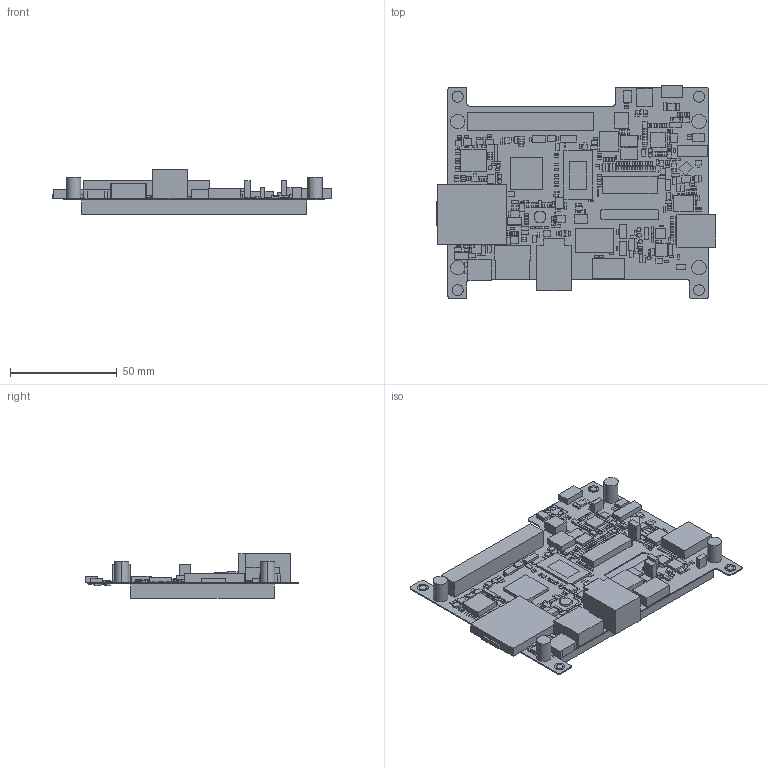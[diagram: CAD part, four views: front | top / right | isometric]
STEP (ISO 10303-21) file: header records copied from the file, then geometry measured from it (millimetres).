
FILE_DESCRIPTION((''),'2;1');
FILE_NAME('4_3R_ASM','2015-01-28T',('Administrator'),(''),'PRO/ENGINEER BY PARAMETRIC TECHNOLOGY CORPORATION, 2007170','PRO/ENGINEER BY PARAMETRIC TECHNOLOGY CORPORATION, 2007170','');
FILE_SCHEMA(('CONFIG_CONTROL_DESIGN'));
Length unit declared in the file: inch
Products named in the file (72): ASM0001; 4_3_R; MTOP-6; CHIP-LED0603; 6_2-PAD; CT3528; DFN1410-6; TRANSFLASH-TFCMF-108-KINGFONT; EHF-105-01-L-D; C0805; C0603; CDPH4D19FNP-470MC; C0402K; SC70-3; KMR221GLFS; TFBGA208_0_8MM; HVQFN24; FBGA-90-0_8MM; SSOP08; SOT143; SOT353-5; HVQFN33; TO263-5; SOT23-5L; TSSOP16; LGA-14; SJ_2-0402; 86L_400MIL_TSOP-2; GOLD-CAP-SD; DFN10-3X3; SOD323-R; XBEE-PRO; 1X02-100MIL; ASFL1-OSCILLATOR; SSOP20; TSSOP8-3MM_BODY; 7M-CRYSTAL; MM39SL; SOD123; 555153-1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
Assembly tree (458 placements, depth 3):
  4_3R_ASM
    ASM0001_ASM_ASM
      ASM0001
      4_3_R
      MTOP-6  x2
      CHIP-LED0603  x16
      6_2-PAD  x4
      CT3528  x4
      DFN1410-6  x3
      TRANSFLASH-TFCMF-108-KINGFONT
      EHF-105-01-L-D
      C0805  x20
      C0603  x8
      CDPH4D19FNP-470MC
      C0402K  x28
      SC70-3  x2
      KMR221GLFS  x2
      TFBGA208_0_8MM
      HVQFN24
      FBGA-90-0_8MM
      SSOP08
      SOT143  x3
      SOT353-5  x3
      HVQFN33
      TO263-5
      SOT23-5L  x3
      TSSOP16  x2
      LGA-14
      SJ_2-0402  x9
      86L_400MIL_TSOP-2
      GOLD-CAP-SD
      DFN10-3X3
      SOD323-R  x7
      XBEE-PRO
      1X02-100MIL  x2
      ASFL1-OSCILLATOR
      SSOP20
      TSSOP8-3MM_BODY
      7M-CRYSTAL  x3
      MM39SL
      SOD123
      555153-1
      USB_CON_A_RA
      CONN2-SMT-100MIL
      B1_00  x8
      TSSOP8
      C0402  x91
      SOT323  x7
      MA04-1  x2
      2X23
      MA06-1
      SOT363_PHILIPS  x2
      P-LCC-4-3
      QFN20_4X4_0_5MM
      DFN2018-6
      MA03-1
      SOT23  x5
      2X06_PMOD
      R0402  x166
      R0603  x3
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Bounding box: 130.91 x 99.84 x 20.78 mm (x, y, z)
Volume: 79327.3 mm3; surface area: 60574.7 mm2
Topology: 457 solids, 457 shells, 2909 faces, 5985 edges, 3990 vertices
Faces by surface type: plane 2781, cylinder 128
Entity records: 22555 total; most frequent: DIRECTION 4609, CARTESIAN_POINT 3713, ORIENTED_EDGE 2586, AXIS2_PLACEMENT_3D 1758, EDGE_CURVE 1293, VECTOR 1093, LINE 1093, VERTEX_POINT 862
